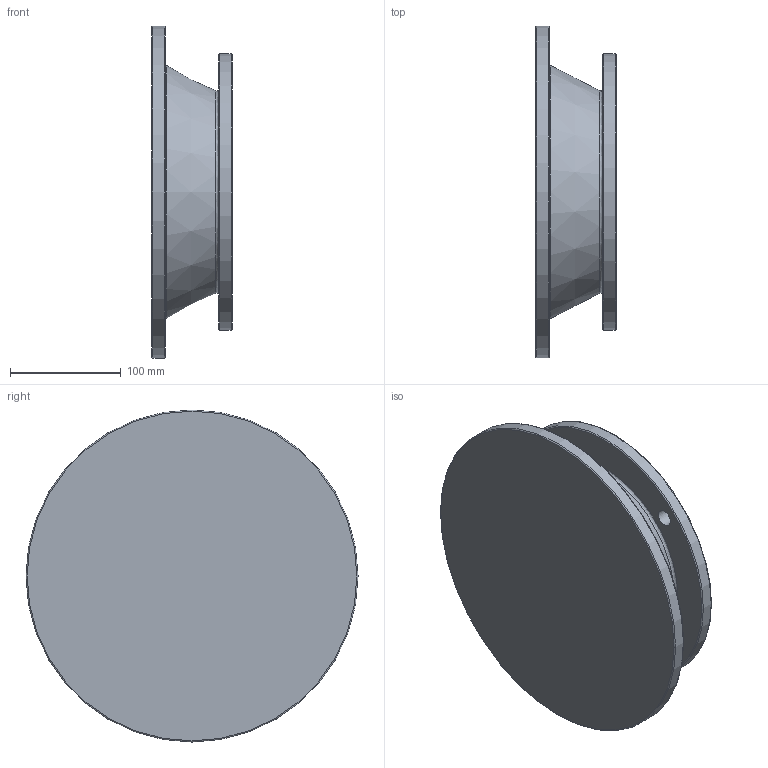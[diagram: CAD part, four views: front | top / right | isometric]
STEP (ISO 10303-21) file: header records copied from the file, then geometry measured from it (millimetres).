
FILE_DESCRIPTION((''),'2;1');
FILE_NAME('D:\PAWEŁ\ZLECENIA\DualSystem\001 Modele\DKAB90_\DK_90_STEP\100-112_B5_L72,5.stp','2011-11-26T10:02:59',('Pawe'),(''),'Autodesk Inventor 2009','Autodesk Inventor 2009','');
FILE_SCHEMA(('AUTOMOTIVE_DESIGN { 1 0 10303 214 1 1 1 1 }'));
Length unit declared in the file: millimetre
Products named in the file (1): 100-112_B5_L72,5
Bounding box: 72.5 x 300 x 300 mm (x, y, z)
Volume: 1434409.1 mm3; surface area: 295067.6 mm2
Topology: 1 solids, 1 shells, 30 faces, 58 edges, 36 vertices
Faces by surface type: plane 11, cylinder 6, bspline 6, torus 5, cone 2
Full cylindrical faces by diameter (mm): 48 x1, 166.5 x1, 180 x1, 250 x1, 300 x1
Entity records: 895 total; most frequent: CARTESIAN_POINT 281, DIRECTION 120, ORIENTED_EDGE 80, EDGE_LOOP 62, AXIS2_PLACEMENT_3D 55, EDGE_CURVE 40, VERTEX_POINT 36, FACE_BOUND 32
